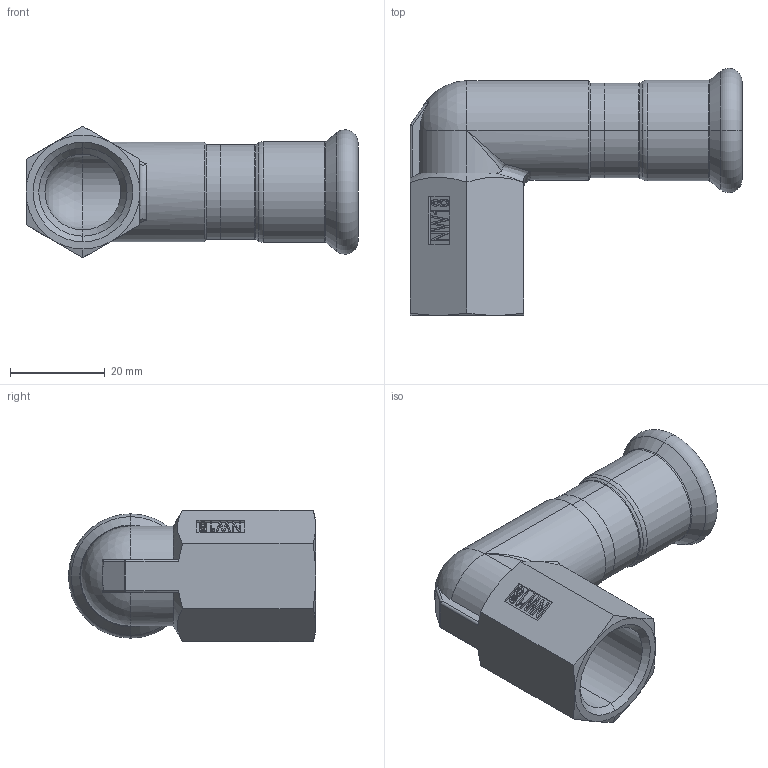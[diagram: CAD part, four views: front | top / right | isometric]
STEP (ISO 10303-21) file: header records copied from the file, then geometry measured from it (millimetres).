
FILE_DESCRIPTION (( 'STEP AP203' ), '1' );
FILE_NAME ('GDA5292.STEP', '2019-01-15T05:23:33', ( '' ), ( '' ), 'SwSTEP 2.0', 'SolidWorks 2015', '' );
FILE_SCHEMA (( 'CONFIG_CONTROL_DESIGN' ));
Length unit declared in the file: millimetre
Products named in the file (3): GDA5292; T-ｉ-01-18; OD18｡ﾁ0.5
Assembly tree (2 placements, depth 2):
  GDA5292
    OD18｡ﾁ0.5
    T-ｉ-01-18
Bounding box: 70 x 52.1 x 27.71 mm (x, y, z)
Volume: 15697.6 mm3; surface area: 13002.1 mm2
Topology: 2 solids, 2 shells, 161 faces, 381 edges, 226 vertices
Faces by surface type: plane 56, cylinder 34, cone 24, bspline 24, torus 17, sphere 6
Entity records: 5903 total; most frequent: CARTESIAN_POINT 2107, ORIENTED_EDGE 746, DIRECTION 689, EDGE_CURVE 373, AXIS2_PLACEMENT_3D 255, VERTEX_POINT 225, LINE 179, VECTOR 179
